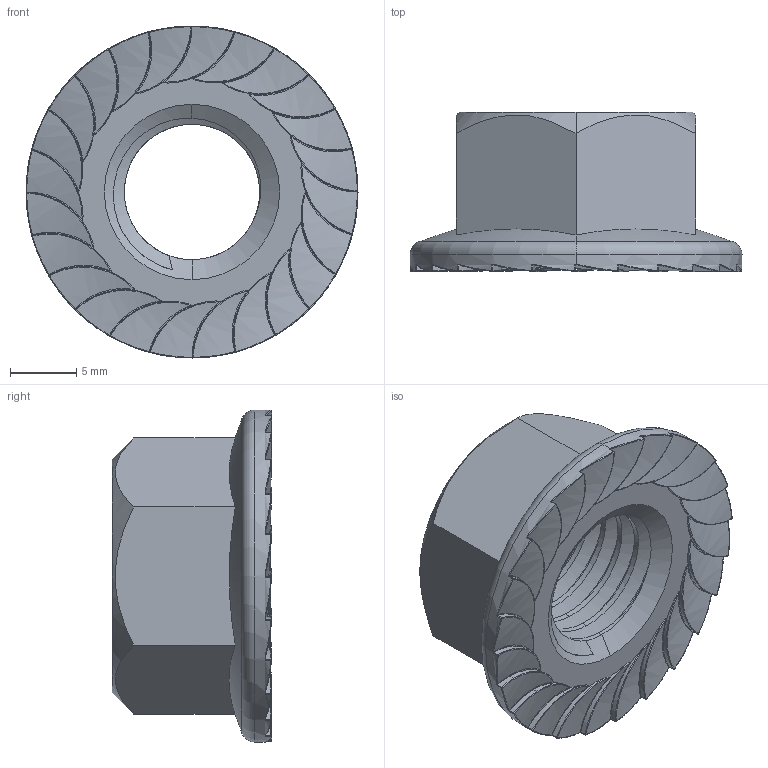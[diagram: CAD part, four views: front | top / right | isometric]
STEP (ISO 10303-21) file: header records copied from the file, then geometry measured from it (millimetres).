
FILE_DESCRIPTION (( 'STEP AP203' ), '1' );
FILE_NAME ('TANLD-304-M12.STEP', '2026-08-25T04:10:24', ( '' ), ( '' ), 'SwSTEP 2.0', 'SolidWorks 2020', '' );
FILE_SCHEMA (( 'CONFIG_CONTROL_DESIGN' ));
Length unit declared in the file: millimetre
Products named in the file (1): TANLD-304-M12
Bounding box: 25 x 12 x 25 mm (x, y, z)
Volume: 2556.9 mm3; surface area: 2106.8 mm2
Topology: 1 solids, 1 shells, 191 faces, 605 edges, 392 vertices
Faces by surface type: bspline 75, cylinder 74, sphere 24, plane 8, cone 6, torus 4
Entity records: 14078 total; most frequent: CARTESIAN_POINT 9775, ORIENTED_EDGE 1066, DIRECTION 683, EDGE_CURVE 533, VERTEX_POINT 344, AXIS2_PLACEMENT_3D 299, B_SPLINE_CURVE_WITH_KNOTS 252, EDGE_LOOP 193
